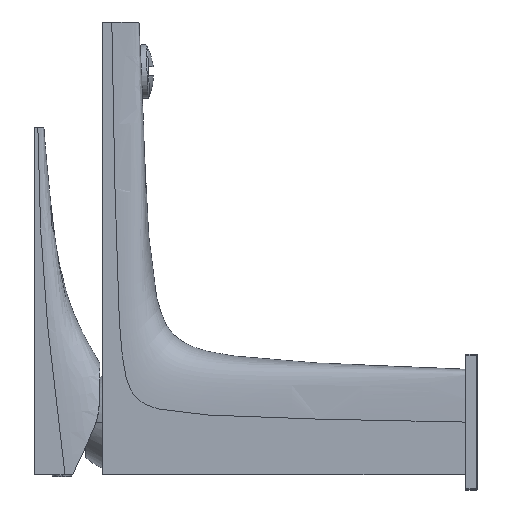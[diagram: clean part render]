
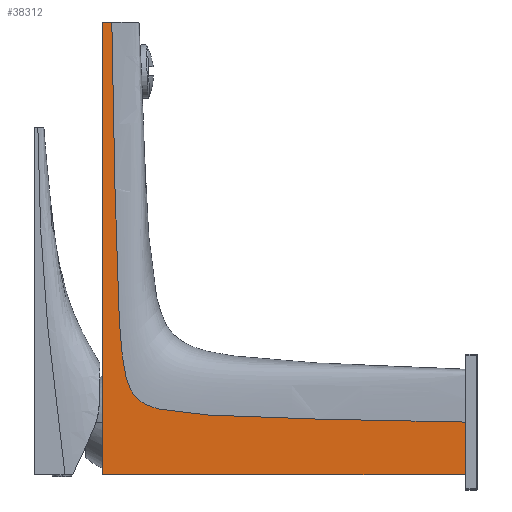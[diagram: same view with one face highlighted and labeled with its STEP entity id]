
A CAD part, left-side view. The second image highlights one B-rep face of the part: STEP entity #38312.
In plain terms, the highlighted planar face has unit normal (-1, 0, 0).
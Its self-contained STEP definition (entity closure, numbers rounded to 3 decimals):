
#57=CARTESIAN_POINT('',(-17.5,117.,131.5));
#11760=DIRECTION('',(0.,0.,1.));
#11761=VECTOR('',#11760,17.5);
#11762=CARTESIAN_POINT('',(-17.5,0.,-18.5));
#11763=LINE('',#11762,#11761);
#11764=DIRECTION('',(0.,-1.,0.));
#11765=VECTOR('',#11764,120.);
#11766=CARTESIAN_POINT('',(-17.5,120.,-18.5));
#11767=LINE('',#11766,#11765);
#11768=DIRECTION('',(0.,0.,-1.));
#11769=VECTOR('',#11768,150.);
#11770=CARTESIAN_POINT('',(-17.5,120.,131.5));
#11771=LINE('',#11770,#11769);
#11772=DIRECTION('',(0.,1.,0.));
#11773=VECTOR('',#11772,3.);
#11774=CARTESIAN_POINT('',(-17.5,117.,131.5));
#11775=LINE('',#11774,#11773);
#11776=CARTESIAN_POINT('',(-17.5,0.,-1.));
#11777=CARTESIAN_POINT('',(-17.5,3.829,-0.933));
#11778=CARTESIAN_POINT('',(-17.5,11.486,-0.797));
#11779=CARTESIAN_POINT('',(-17.5,22.985,-0.581));
#11780=CARTESIAN_POINT('',(-17.5,34.373,-0.353));
#11781=CARTESIAN_POINT('',(-17.5,46.19,-0.09));
#11782=CARTESIAN_POINT('',(-17.5,53.596,0.094));
#11783=CARTESIAN_POINT('',(-17.5,59.731,0.268));
#11784=CARTESIAN_POINT('',(-17.5,62.032,0.336));
#11785=CARTESIAN_POINT('',(-17.5,64.34,0.408));
#11786=CARTESIAN_POINT('',(-17.5,66.664,0.484));
#11787=CARTESIAN_POINT('',(-17.5,68.983,0.564));
#11788=CARTESIAN_POINT('',(-17.5,71.292,0.649));
#11789=CARTESIAN_POINT('',(-17.5,73.605,0.74));
#11790=CARTESIAN_POINT('',(-17.5,75.915,0.837));
#11791=CARTESIAN_POINT('',(-17.5,78.235,0.943));
#11792=CARTESIAN_POINT('',(-17.5,80.541,1.058));
#11793=CARTESIAN_POINT('',(-17.5,82.852,1.185));
#11794=CARTESIAN_POINT('',(-17.5,85.17,1.326));
#11795=CARTESIAN_POINT('',(-17.5,87.475,1.485));
#11796=CARTESIAN_POINT('',(-17.5,89.776,1.666));
#11797=CARTESIAN_POINT('',(-17.5,92.084,1.876));
#11798=CARTESIAN_POINT('',(-17.5,94.39,2.125));
#11799=CARTESIAN_POINT('',(-17.5,96.673,2.422));
#11800=CARTESIAN_POINT('',(-17.5,98.978,2.794));
#11801=CARTESIAN_POINT('',(-17.5,101.241,3.265));
#11802=CARTESIAN_POINT('',(-17.5,103.473,3.885));
#11803=CARTESIAN_POINT('',(-17.5,105.637,4.734));
#11804=CARTESIAN_POINT('',(-17.5,107.633,5.9));
#11805=CARTESIAN_POINT('',(-17.5,109.353,7.493));
#11806=CARTESIAN_POINT('',(-17.5,110.648,9.416));
#11807=CARTESIAN_POINT('',(-17.5,111.855,12.139));
#11808=CARTESIAN_POINT('',(-17.5,112.786,15.765));
#11809=CARTESIAN_POINT('',(-17.5,113.463,20.081));
#11810=CARTESIAN_POINT('',(-17.5,113.932,24.427));
#11811=CARTESIAN_POINT('',(-17.5,114.281,28.79));
#11812=CARTESIAN_POINT('',(-17.5,114.556,33.153));
#11813=CARTESIAN_POINT('',(-17.5,114.782,37.516));
#11814=CARTESIAN_POINT('',(-17.5,114.974,
41.897));
#11815=CARTESIAN_POINT('',(-17.5,115.142,
46.263));
#11816=CARTESIAN_POINT('',(-17.5,115.291,
50.623));
#11817=CARTESIAN_POINT('',(-17.5,115.427,
55.017));
#11818=CARTESIAN_POINT('',(-17.5,115.55,
59.353));
#11819=CARTESIAN_POINT('',(-17.5,115.751,
66.966));
#11820=CARTESIAN_POINT('',(-17.5,115.934,
74.785));
#11821=CARTESIAN_POINT('',(-17.5,116.182,
86.398));
#11822=CARTESIAN_POINT('',(-17.5,116.401,
97.601));
#11823=CARTESIAN_POINT('',(-17.5,116.61,
108.926));
#11824=CARTESIAN_POINT('',(-17.5,116.809,
120.204));
#11825=CARTESIAN_POINT('',(-17.5,116.937,
127.736));
#11826=CARTESIAN_POINT('',(-17.5,117.,131.5));
#11874=CARTESIAN_POINT('',(-17.5,0.,-1.));
#13608=CARTESIAN_POINT('',(-17.5,120.,131.5));
#13610=VERTEX_POINT('',#13608);
#13614=CARTESIAN_POINT('',(-17.5,120.,-18.5));
#13615=VERTEX_POINT('',#13614);
#13634=VERTEX_POINT('',#57);
#15484=CARTESIAN_POINT('',(-17.5,0.,-18.5));
#15486=VERTEX_POINT('',#15484);
#15490=VERTEX_POINT('',#11874);
#38299=CARTESIAN_POINT('',(-17.5,120.,-18.5));
#38300=DIRECTION('',(1.,0.,0.));
#38301=DIRECTION('',(0.,0.,1.));
#38302=AXIS2_PLACEMENT_3D('',#38299,#38300,#38301);
#38303=PLANE('',#38302);
#38304=ORIENTED_EDGE('',*,*,#18121,.F.);
#38305=ORIENTED_EDGE('',*,*,#38280,.F.);
#38306=ORIENTED_EDGE('',*,*,#15601,.F.);
#38307=ORIENTED_EDGE('',*,*,#15625,.F.);
#38309=ORIENTED_EDGE('',*,*,#38308,.F.);
#38310=EDGE_LOOP('',(#38304,#38305,#38306,#38307,#38309));
#38311=FACE_OUTER_BOUND('',#38310,.F.);
#38312=ADVANCED_FACE('',(#38311),#38303,.F.);
#11827=B_SPLINE_CURVE_WITH_KNOTS('',3,(#11776,#11777,#11778,#11779,#11780,
#11781,#11782,#11783,#11784,#11785,#11786,#11787,#11788,#11789,#11790,#11791,
#11792,#11793,#11794,#11795,#11796,#11797,#11798,#11799,#11800,#11801,#11802,
#11803,#11804,#11805,#11806,#11807,#11808,#11809,#11810,#11811,#11812,#11813,
#11814,#11815,#11816,#11817,#11818,#11819,#11820,#11821,#11822,#11823,#11824,
#11825,#11826),.UNSPECIFIED.,.F.,.F.,(4,1,1,1,1,1,1,1,1,1,1,1,1,1,1,1,1,1,1,1,1,
1,1,1,1,1,1,1,1,1,1,1,1,1,1,1,1,1,1,1,1,1,1,1,1,1,1,1,4),(0.,
0.053,0.105,0.158,0.21,
0.263,0.272,0.281,0.29,
0.299,0.308,0.317,0.326,
0.335,0.344,0.353,0.362,
0.371,0.38,0.389,0.398,
0.407,0.416,0.425,0.434,
0.443,0.452,0.461,0.47,
0.479,0.488,0.505,0.522,
0.539,0.556,0.572,0.589,
0.606,0.623,0.64,0.656,
0.673,0.69,0.742,0.793,
0.845,0.897,0.948,1.),.UNSPECIFIED.);
#15601=EDGE_CURVE('',#13610,#13615,#11771,.T.);
#15625=EDGE_CURVE('',#13634,#13610,#11775,.T.);
#18121=EDGE_CURVE('',#15486,#15490,#11763,.T.);
#38280=EDGE_CURVE('',#13615,#15486,#11767,.T.);
#38308=EDGE_CURVE('',#15490,#13634,#11827,.T.);
